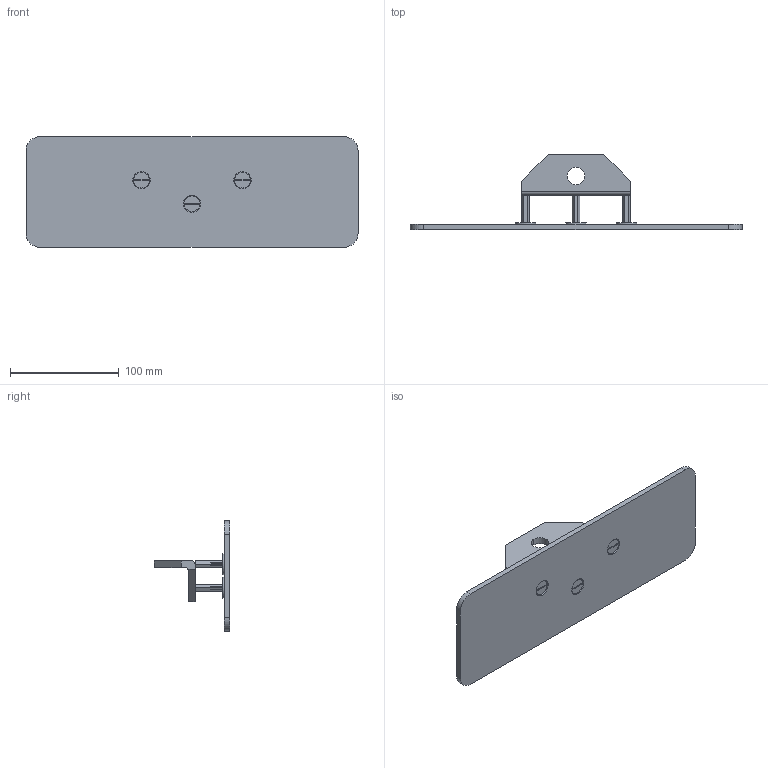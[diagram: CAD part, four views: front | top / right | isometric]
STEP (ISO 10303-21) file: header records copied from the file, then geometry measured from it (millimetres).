
FILE_DESCRIPTION (( 'STEP AP214' ), '1' );
FILE_NAME ('1014968.STEP', '2020-01-31T15:54:45', ( '' ), ( '' ), 'SwSTEP 2.0', 'SolidWorks 2019', '' );
FILE_SCHEMA (( 'AUTOMOTIVE_DESIGN' ));
Length unit declared in the file: inch
Products named in the file (1): 1014968
Bounding box: 304.8 x 69.09 x 101.6 mm (x, y, z)
Volume: 182970.8 mm3; surface area: 81336.5 mm2
Topology: 1 solids, 4 shells, 374 faces, 1015 edges, 652 vertices
Faces by surface type: cylinder 202, plane 78, cone 58, bspline 36
Entity records: 29388 total; most frequent: CARTESIAN_POINT 20879, ORIENTED_EDGE 2022, DIRECTION 1414, EDGE_CURVE 1011, VERTEX_POINT 652, AXIS2_PLACEMENT_3D 545, EDGE_LOOP 399, ADVANCED_FACE 374
